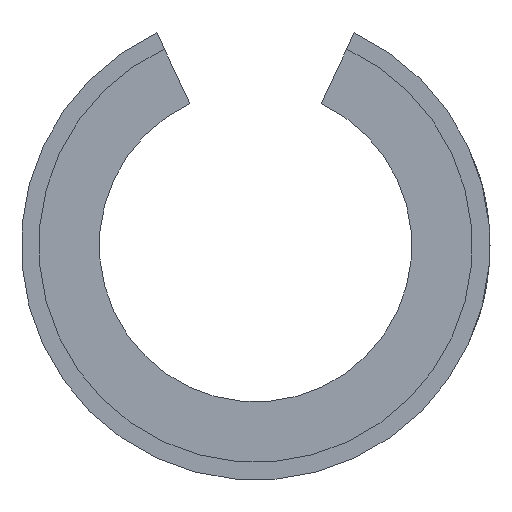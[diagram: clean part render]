
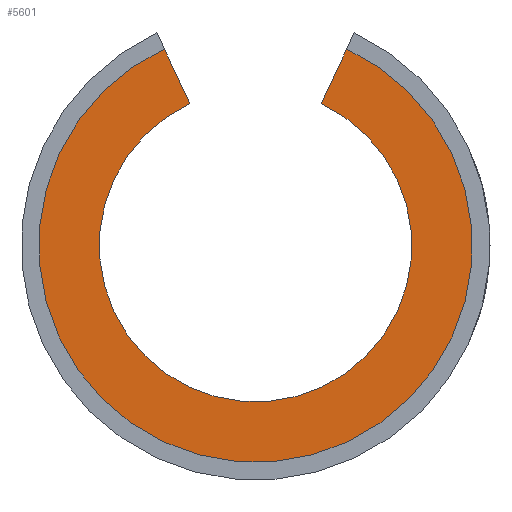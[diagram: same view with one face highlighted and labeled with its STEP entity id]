
A CAD part, left-side view. The second image highlights one B-rep face of the part: STEP entity #5601.
In plain terms, the highlighted planar face has unit normal (-1, 0, 0).
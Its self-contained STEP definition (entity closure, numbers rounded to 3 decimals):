
#125=PLANE('',#6039);
#417=LINE('',#8952,#895);
#418=LINE('',#8954,#896);
#895=VECTOR('',#6672,1000.);
#896=VECTOR('',#6673,1000.);
#1329=CIRCLE('',#6014,25.);
#1342=CIRCLE('',#6040,34.675);
#1729=ORIENTED_EDGE('',*,*,#3414,.T.);
#1730=ORIENTED_EDGE('',*,*,#3375,.T.);
#1731=ORIENTED_EDGE('',*,*,#3415,.T.);
#1732=ORIENTED_EDGE('',*,*,#3416,.F.);
#3375=EDGE_CURVE('',#4224,#4225,#1329,.F.);
#3414=EDGE_CURVE('',#4250,#4224,#417,.T.);
#3415=EDGE_CURVE('',#4225,#4251,#418,.T.);
#3416=EDGE_CURVE('',#4250,#4251,#1342,.T.);
#4224=VERTEX_POINT('',#8875);
#4225=VERTEX_POINT('',#8876);
#4250=VERTEX_POINT('',#8953);
#4251=VERTEX_POINT('',#8955);
#4796=EDGE_LOOP('',(#1729,#1730,#1731,#1732));
#5189=FACE_BOUND('',#4796,.T.);
#5601=ADVANCED_FACE('',(#5189),#125,.T.);
#6014=AXIS2_PLACEMENT_3D('',#8874,#6594,#6595);
#6039=AXIS2_PLACEMENT_3D('',#8951,#6670,#6671);
#6040=AXIS2_PLACEMENT_3D('',#8956,#6674,#6675);
#6594=DIRECTION('',(-1.,0.,0.));
#6595=DIRECTION('',(0.,0.,1.));
#6670=DIRECTION('',(-1.,0.,0.));
#6671=DIRECTION('',(0.,0.,-1.));
#6672=DIRECTION('',(0.,0.423,-0.906));
#6673=DIRECTION('',(0.,0.423,0.906));
#6674=DIRECTION('',(1.,0.,0.));
#6675=DIRECTION('',(0.,0.,-1.));
#8874=CARTESIAN_POINT('',(-47.,0.,0.));
#8875=CARTESIAN_POINT('',(-47.,-10.5,22.688));
#8876=CARTESIAN_POINT('',(-47.,10.5,22.688));
#8951=CARTESIAN_POINT('',(-47.,0.,0.));
#8952=CARTESIAN_POINT('',(-47.,-10.5,22.688));
#8953=CARTESIAN_POINT('',(-47.,-14.589,31.456));
#8954=CARTESIAN_POINT('',(-47.,10.5,22.688));
#8955=CARTESIAN_POINT('',(-47.,14.589,31.456));
#8956=CARTESIAN_POINT('',(-47.,0.,0.));
